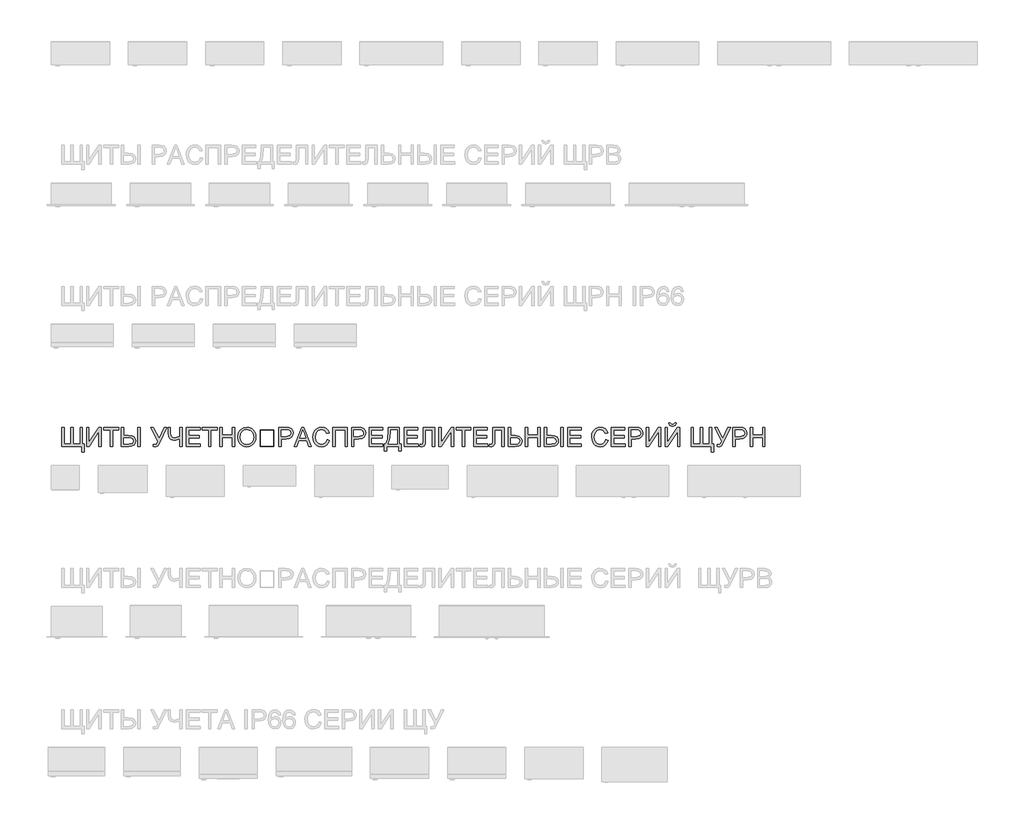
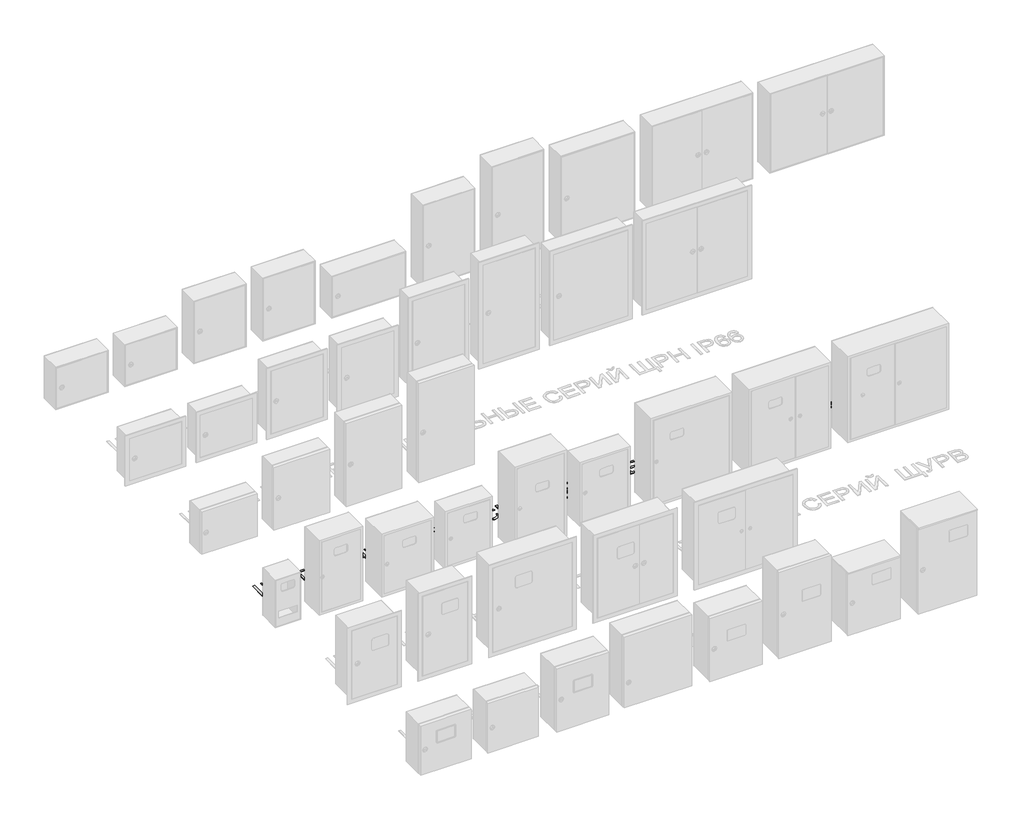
# One storey, part 11 of 25: 1 proxy.
"""IFC4 building model written with IfcOpenShell, lengths in millimetres."""

from ifc_helpers import new_model, si_unit, frame, origin, place, context, project, spatial, polyline, outline, extrude, element, save

model = new_model("IFC4")

# Units and contexts
model_context = context("Model", 3, world=origin())
ifc_project = project(units=[si_unit("LENGTHUNIT", "METRE", prefix="MILLI")], contexts=[model_context])

# Site, building, storey
site = spatial("IfcSite", under=ifc_project)
building = spatial("IfcBuilding", under=site)
storey = spatial("IfcBuildingStorey", under=building, Name="Этаж 01", Elevation=0.0)

# Proxy
placement = place(None, origin())
element("IfcBuildingElementProxy", 1, Name="Надпись на модели 1", ObjectType="Надпись на модели 1", at=placement, inside=storey, context=model_context, shape_type="SweptSolid", body=[
    extrude(outline(polyline([(-19039.6906686, 7636.6915941), (-19027.1336298, 7636.6915941), (-19027.1336298, 7548.7923228), (-18991.0321433, 7548.7923228), (-18991.0321433, 7636.6915941), (-18978.4751046, 7636.6915941), (-18978.4751046, 7548.7923228), (-18942.3736181, 7548.7923228), (-18942.3736181, 7636.6915941), (-18929.8165793, 7636.6915941), (-18929.8165793, 7548.7923228), (-18920.3988003, 7548.7923228), (-18920.3988003, 7507.9819468), (-18932.955839, 7507.9819468), (-18932.955839, 7536.235284), (-19039.6906686, 7536.235284), (-19039.6906686, 7636.6915941)])), frame((0.0, 0.0, 40.0), z_axis=(0.0, 0.0, 1.0), x_axis=(1.0, 0.0, 0.0)), (0.0, 0.0, 1.0), 2.0),
    extrude(outline(polyline([(-18907.8417615, 7636.6915941), (-18895.2847227, 7636.6915941), (-18895.2847227, 7557.1309813), (-18842.7021229, 7636.6915941), (-18829.3602692, 7636.6915941), (-18829.3602692, 7536.235284), (-18841.917308, 7536.235284), (-18841.917308, 7615.5751676), (-18894.3772805, 7536.235284), (-18907.8417615, 7536.235284), (-18907.8417615, 7636.6915941)])), frame((0.0, 0.0, 40.0), z_axis=(0.0, 0.0, 1.0), x_axis=(1.0, 0.0, 0.0)), (0.0, 0.0, 1.0), 2.0),
    extrude(outline(polyline([(-18782.2713738, 7536.235284), (-18782.2713738, 7624.1345554), (-18815.2336006, 7624.1345554), (-18815.2336006, 7636.6915941), (-18736.7521083, 7636.6915941), (-18736.7521083, 7624.1345554), (-18769.714335, 7624.1345554), (-18769.714335, 7536.235284), (-18782.2713738, 7536.235284)])), frame((0.0, 0.0, 40.0), z_axis=(0.0, 0.0, 1.0), x_axis=(1.0, 0.0, 0.0)), (0.0, 0.0, 1.0), 2.0),
    extrude(outline(polyline([(-18722.6254397, 7636.6915941), (-18710.0684009, 7636.6915941), (-18710.0684009, 7594.3115883), (-18685.935342, 7594.3115883), (-18666.2965748, 7592.1165591), (-18654.7634743, 7585.5314713), (-18649.1532739, 7576.1627432), (-18647.2832071, 7565.6167927), (-18649.2605728, 7554.6017926), (-18655.1926699, 7545.0521891), (-18666.4958443, 7538.4395103), (-18684.5864414, 7536.235284), (-18722.6254397, 7536.235284), (-18722.6254397, 7636.6915941)]), holes=[polyline([(-18710.0684009, 7548.7923228), (-18684.7090687, 7548.7923228), (-18665.7386205, 7552.777711), (-18661.3148395, 7557.9617815), (-18659.8402458, 7565.5432163), (-18663.4087012, 7575.5250811), (-18672.6302765, 7580.6509035), (-18691.5026229, 7581.7545495), (-18710.0684009, 7581.7545495), (-18710.0684009, 7548.7923228)])]), frame((0.0, 0.0, 40.0), z_axis=(0.0, 0.0, 1.0), x_axis=(1.0, 0.0, 0.0)), (0.0, 0.0, 1.0), 2.0),
    extrude(outline(polyline([(-18634.7261683, 7636.6915941), (-18622.1691295, 7636.6915941), (-18622.1691295, 7536.235284), (-18634.7261683, 7536.235284), (-18634.7261683, 7636.6915941)])), frame((0.0, 0.0, 40.0), z_axis=(0.0, 0.0, 1.0), x_axis=(1.0, 0.0, 0.0)), (0.0, 0.0, 1.0), 2.0),
    extrude(outline(polyline([(-18566.44727, 7636.6915941), (-18552.5413306, 7636.6915941), (-18522.4976343, 7577.1928128), (-18495.4705704, 7636.6915941), (-18481.6872583, 7636.6915941), (-18519.8243585, 7558.430831), (-18530.1986307, 7539.2028654), (-18541.7991763, 7534.6656541), (-18553.1054163, 7536.235284), (-18553.1054163, 7547.2226929), (-18543.2216533, 7547.2226929), (-18535.8885389, 7550.0185961), (-18529.0949847, 7562.7473131), (-18566.44727, 7636.6915941)])), frame((0.0, 0.0, 40.0), z_axis=(0.0, 0.0, 1.0), x_axis=(1.0, 0.0, 0.0)), (0.0, 0.0, 1.0), 2.0),
    extrude(outline(polyline([(-18399.2816914, 7536.235284), (-18411.8387301, 7536.235284), (-18411.8387301, 7576.4570488), (-18442.9370215, 7569.1975108), (-18461.294333, 7574.1639177), (-18471.9383854, 7586.7700074), (-18474.623924, 7606.7705252), (-18474.623924, 7636.6915941), (-18462.0668852, 7636.6915941), (-18462.0668852, 7608.4627824), (-18460.558569, 7594.8848711), (-18456.0336205, 7586.9171602), (-18441.5390699, 7581.7545495), (-18411.8387301, 7587.984018), (-18411.8387301, 7636.6915941), (-18399.2816914, 7636.6915941), (-18399.2816914, 7536.235284)])), frame((0.0, 0.0, 40.0), z_axis=(0.0, 0.0, 1.0), x_axis=(1.0, 0.0, 0.0)), (0.0, 0.0, 1.0), 2.0),
    extrude(outline(polyline([(-18377.3068735, 7536.235284), (-18377.3068735, 7636.6915941), (-18305.1039006, 7636.6915941), (-18305.1039006, 7624.1345554), (-18364.7498348, 7624.1345554), (-18364.7498348, 7594.3115883), (-18308.2431603, 7594.3115883), (-18308.2431603, 7581.7545495), (-18364.7498348, 7581.7545495), (-18364.7498348, 7548.7923228), (-18303.5342708, 7548.7923228), (-18303.5342708, 7536.235284), (-18377.3068735, 7536.235284)])), frame((0.0, 0.0, 40.0), z_axis=(0.0, 0.0, 1.0), x_axis=(1.0, 0.0, 0.0)), (0.0, 0.0, 1.0), 2.0),
    extrude(outline(polyline([(-18259.5846351, 7536.235284), (-18259.5846351, 7624.1345554), (-18292.5468618, 7624.1345554), (-18292.5468618, 7636.6915941), (-18214.0653695, 7636.6915941), (-18214.0653695, 7624.1345554), (-18247.0275963, 7624.1345554), (-18247.0275963, 7536.235284), (-18259.5846351, 7536.235284)])), frame((0.0, 0.0, 40.0), z_axis=(0.0, 0.0, 1.0), x_axis=(1.0, 0.0, 0.0)), (0.0, 0.0, 1.0), 2.0),
    extrude(outline(polyline([(-18199.9387009, 7536.235284), (-18199.9387009, 7636.6915941), (-18187.3816621, 7636.6915941), (-18187.3816621, 7595.8812181), (-18134.0142474, 7595.8812181), (-18134.0142474, 7636.6915941), (-18121.4572086, 7636.6915941), (-18121.4572086, 7536.235284), (-18134.0142474, 7536.235284), (-18134.0142474, 7583.3241794), (-18187.3816621, 7583.3241794), (-18187.3816621, 7536.235284), (-18199.9387009, 7536.235284)])), frame((0.0, 0.0, 40.0), z_axis=(0.0, 0.0, 1.0), x_axis=(1.0, 0.0, 0.0)), (0.0, 0.0, 1.0), 2.0),
    extrude(outline(polyline([(-18104.1912803, 7585.1390639), (-18100.8435541, 7607.353005), (-18090.8003757, 7624.1590808), (-18075.4658278, 7634.7356882), (-18056.2439936, 7638.261224), (-18043.0676868, 7636.605755), (-18031.2525434, 7631.6393481), (-18021.4423569, 7623.7114911), (-18014.2809207, 7613.1716719), (-18009.9031249, 7600.528794), (-18008.4438597, 7586.2917608), (-18009.979767, 7571.8646552), (-18014.587489, 7559.0439677), (-18022.0125739, 7548.4857544), (-18032.0005701, 7540.8460717), (-18043.714546, 7536.2107585), (-18056.31757, 7534.6656541), (-18069.6962119, 7536.3732397), (-18081.5788003, 7541.4959965), (-18091.3644614, 7549.5710063), (-18098.4523212, 7560.1353509), (-18104.1912803, 7585.1390639)]), holes=[polyline([(-18091.6342415, 7585.0164366), (-18089.1234469, 7569.301744), (-18081.5910631, 7557.327185), (-18070.2694947, 7549.7488159), (-18056.3911464, 7547.2226929), (-18042.310463, 7549.7733414), (-18030.9705005, 7557.4252869), (-18023.493299, 7569.7677279), (-18021.0008985, 7586.3898627), (-18025.2683296, 7607.1138817), (-18037.7395292, 7620.8358802), (-18056.1704172, 7625.7041852), (-18069.6778178, 7623.3589375), (-18081.1618674, 7616.3231943), (-18089.016148, 7603.8060095), (-18091.6342415, 7585.0164366)])]), frame((0.0, 0.0, 40.0), z_axis=(0.0, 0.0, 1.0), x_axis=(1.0, 0.0, 0.0)), (0.0, 0.0, 1.0), 2.0),
    extrude(outline(polyline([(-17984.899412, 7536.235284), (-17984.899412, 7624.1345554), (-17914.2660689, 7624.1345554), (-17914.2660689, 7536.235284), (-17984.899412, 7536.235284)]), holes=[polyline([(-17981.7601523, 7539.3745437), (-17917.4053286, 7539.3745437), (-17917.4053286, 7620.9952957), (-17981.7601523, 7620.9952957), (-17981.7601523, 7539.3745437)])]), frame((0.0, 0.0, 40.0), z_axis=(0.0, 0.0, 1.0), x_axis=(1.0, 0.0, 0.0)), (0.0, 0.0, 1.0), 2.0),
    extrude(outline(polyline([(-17886.0127317, 7536.235284), (-17886.0127317, 7636.6915941), (-17848.7830738, 7636.6915941), (-17833.7734884, 7635.735101), (-17821.5720689, 7631.0384742), (-17813.662606, 7621.3263895), (-17810.6704991, 7607.6289165), (-17812.6907844, 7595.7892476), (-17818.7516402, 7585.9238788), (-17830.0854714, 7579.2652147), (-17847.9246825, 7577.04566), (-17873.4556929, 7577.04566), (-17873.4556929, 7536.235284), (-17886.0127317, 7536.235284)]), holes=[polyline([(-17873.4556929, 7589.6026988), (-17847.1889185, 7589.6026988), (-17828.6967169, 7594.2134864), (-17824.5948326, 7599.7623732), (-17823.2275379, 7607.1874581), (-17826.4526367, 7617.5862559), (-17834.9261853, 7623.2761641), (-17847.4832241, 7624.1345554), (-17873.4556929, 7624.1345554), (-17873.4556929, 7589.6026988)])]), frame((0.0, 0.0, 40.0), z_axis=(0.0, 0.0, 1.0), x_axis=(1.0, 0.0, 0.0)), (0.0, 0.0, 1.0), 2.0),
    extrude(outline(polyline([(-17805.1032182, 7536.235284), (-17765.0040808, 7636.6915941), (-17754.3109774, 7636.6915941), (-17714.21184, 7536.235284), (-17727.4801172, 7536.235284), (-17738.982561, 7567.6278809), (-17780.3570227, 7567.6278809), (-17791.8349409, 7536.235284), (-17805.1032182, 7536.235284)]), holes=[polyline([(-17775.746235, 7580.1849197), (-17743.5688232, 7580.1849197), (-17752.6187202, 7604.8820643), (-17759.6575291, 7624.1345554), (-17765.911523, 7607.0403053), (-17775.746235, 7580.1849197)])]), frame((0.0, 0.0, 40.0), z_axis=(0.0, 0.0, 1.0), x_axis=(1.0, 0.0, 0.0)), (0.0, 0.0, 1.0), 2.0),
    extrude(outline(polyline([(-17630.1630668, 7571.944363), (-17617.606028, 7568.7070014), (-17623.4001694, 7554.0744951), (-17632.4929861, 7543.3844574), (-17644.4368882, 7536.845355), (-17658.784286, 7534.6656541), (-17673.3493473, 7536.3149918), (-17684.9161704, 7541.2630046), (-17693.7821265, 7549.3380144), (-17700.2445869, 7560.3683429), (-17705.5052994, 7587.2237285), (-17704.018443, 7601.8715633), (-17699.5578738, 7614.5205726), (-17692.3565838, 7624.7691518), (-17682.6475648, 7632.2156965), (-17671.1328583, 7636.7498421), (-17658.5145059, 7638.261224), (-17644.7465222, 7636.305318), (-17633.3636401, 7630.4376002), (-17624.7214789, 7621.0198211), (-17619.1756579, 7608.4137314), (-17631.7326966, 7605.4216246), (-17642.0333925, 7620.8604056), (-17659.0050152, 7625.7041852), (-17678.6499138, 7620.3331081), (-17689.7476873, 7605.9121339), (-17692.9482606, 7587.248254), (-17689.1590761, 7565.6167927), (-17677.3623268, 7551.7966924), (-17660.0350848, 7547.2226929), (-17649.5535136, 7548.78006), (-17640.8193819, 7553.4521614), (-17634.2250972, 7561.189946), (-17630.1630668, 7571.944363)])), frame((0.0, 0.0, 40.0), z_axis=(0.0, 0.0, 1.0), x_axis=(1.0, 0.0, 0.0)), (0.0, 0.0, 1.0), 2.0),
    extrude(outline(polyline([(-17600.3400997, 7636.6915941), (-17521.8586074, 7636.6915941), (-17521.8586074, 7536.235284), (-17534.4156462, 7536.235284), (-17534.4156462, 7624.1345554), (-17587.7830609, 7624.1345554), (-17587.7830609, 7536.235284), (-17600.3400997, 7536.235284), (-17600.3400997, 7636.6915941)])), frame((0.0, 0.0, 40.0), z_axis=(0.0, 0.0, 1.0), x_axis=(1.0, 0.0, 0.0)), (0.0, 0.0, 1.0), 2.0),
    extrude(outline(polyline([(-17499.8837896, 7536.235284), (-17499.8837896, 7636.6915941), (-17462.6541316, 7636.6915941), (-17447.6445462, 7635.735101), (-17435.4431267, 7631.0384742), (-17427.5336638, 7621.3263895), (-17424.5415569, 7607.6289165), (-17426.5618422, 7595.7892476), (-17432.6226981, 7585.9238788), (-17443.9565292, 7579.2652147), (-17461.7957403, 7577.04566), (-17487.3267508, 7577.04566), (-17487.3267508, 7536.235284), (-17499.8837896, 7536.235284)]), holes=[polyline([(-17487.3267508, 7589.6026988), (-17461.0599763, 7589.6026988), (-17442.5677747, 7594.2134864), (-17438.4658905, 7599.7623732), (-17437.0985957, 7607.1874581), (-17440.3236945, 7617.5862559), (-17448.7972432, 7623.2761641), (-17461.3542819, 7624.1345554), (-17487.3267508, 7624.1345554), (-17487.3267508, 7589.6026988)])]), frame((0.0, 0.0, 40.0), z_axis=(0.0, 0.0, 1.0), x_axis=(1.0, 0.0, 0.0)), (0.0, 0.0, 1.0), 2.0),
    extrude(outline(polyline([(-17407.2756286, 7536.235284), (-17407.2756286, 7636.6915941), (-17335.0726557, 7636.6915941), (-17335.0726557, 7624.1345554), (-17394.7185899, 7624.1345554), (-17394.7185899, 7594.3115883), (-17338.2119154, 7594.3115883), (-17338.2119154, 7581.7545495), (-17394.7185899, 7581.7545495), (-17394.7185899, 7548.7923228), (-17333.5030259, 7548.7923228), (-17333.5030259, 7536.235284), (-17407.2756286, 7536.235284)])), frame((0.0, 0.0, 40.0), z_axis=(0.0, 0.0, 1.0), x_axis=(1.0, 0.0, 0.0)), (0.0, 0.0, 1.0), 2.0),
    extrude(outline(polyline([(-17305.2496886, 7636.6915941), (-17245.6037545, 7636.6915941), (-17245.6037545, 7548.7923228), (-17236.1859754, 7548.7923228), (-17236.1859754, 7512.6908363), (-17248.7430142, 7512.6908363), (-17248.7430142, 7536.235284), (-17313.0978379, 7536.235284), (-17313.0978379, 7512.6908363), (-17325.6548766, 7512.6908363), (-17325.6548766, 7548.7923228), (-17317.8067274, 7548.7923228), (-17308.3889483, 7576.2056628), (-17305.2496886, 7622.1479926), (-17305.2496886, 7636.6915941)]), holes=[polyline([(-17258.1607933, 7624.1345554), (-17292.6926499, 7624.1345554), (-17292.6926499, 7619.0823093), (-17295.2432984, 7584.67308), (-17299.0202202, 7564.7890582), (-17305.2496886, 7548.7923228), (-17258.1607933, 7548.7923228), (-17258.1607933, 7624.1345554)])]), frame((0.0, 0.0, 40.0), z_axis=(0.0, 0.0, 1.0), x_axis=(1.0, 0.0, 0.0)), (0.0, 0.0, 1.0), 2.0),
    extrude(outline(polyline([(-17220.489677, 7536.235284), (-17220.489677, 7636.6915941), (-17148.286704, 7636.6915941), (-17148.286704, 7624.1345554), (-17207.9326382, 7624.1345554), (-17207.9326382, 7594.3115883), (-17151.4259637, 7594.3115883), (-17151.4259637, 7581.7545495), (-17207.9326382, 7581.7545495), (-17207.9326382, 7548.7923228), (-17146.7170742, 7548.7923228), (-17146.7170742, 7536.235284), (-17220.489677, 7536.235284)])), frame((0.0, 0.0, 40.0), z_axis=(0.0, 0.0, 1.0), x_axis=(1.0, 0.0, 0.0)), (0.0, 0.0, 1.0), 2.0),
    extrude(outline(polyline([(-17120.0333668, 7636.6915941), (-17058.8178028, 7636.6915941), (-17058.8178028, 7536.235284), (-17071.3748416, 7536.235284), (-17071.3748416, 7624.1345554), (-17107.476328, 7624.1345554), (-17107.476328, 7572.8763307), (-17108.9355933, 7550.0063333), (-17115.0546971, 7538.7000934), (-17126.8759719, 7534.6656541), (-17137.2992951, 7536.235284), (-17135.7296653, 7548.7923228), (-17129.720926, 7547.2226929), (-17122.4491252, 7550.5949445), (-17120.0333668, 7566.475184), (-17120.0333668, 7636.6915941)])), frame((0.0, 0.0, 40.0), z_axis=(0.0, 0.0, 1.0), x_axis=(1.0, 0.0, 0.0)), (0.0, 0.0, 1.0), 2.0),
    extrude(outline(polyline([(-17036.842985, 7636.6915941), (-17024.2859462, 7636.6915941), (-17024.2859462, 7557.1309813), (-16971.7033464, 7636.6915941), (-16958.3614927, 7636.6915941), (-16958.3614927, 7536.235284), (-16970.9185314, 7536.235284), (-16970.9185314, 7615.5751676), (-17023.3785039, 7536.235284), (-17036.842985, 7536.235284), (-17036.842985, 7636.6915941)])), frame((0.0, 0.0, 40.0), z_axis=(0.0, 0.0, 1.0), x_axis=(1.0, 0.0, 0.0)), (0.0, 0.0, 1.0), 2.0),
    extrude(outline(polyline([(-16911.2725973, 7536.235284), (-16911.2725973, 7624.1345554), (-16944.234824, 7624.1345554), (-16944.234824, 7636.6915941), (-16865.7533317, 7636.6915941), (-16865.7533317, 7624.1345554), (-16898.7155585, 7624.1345554), (-16898.7155585, 7536.235284), (-16911.2725973, 7536.235284)])), frame((0.0, 0.0, 40.0), z_axis=(0.0, 0.0, 1.0), x_axis=(1.0, 0.0, 0.0)), (0.0, 0.0, 1.0), 2.0),
    extrude(outline(polyline([(-16851.6266631, 7536.235284), (-16851.6266631, 7636.6915941), (-16779.4236902, 7636.6915941), (-16779.4236902, 7624.1345554), (-16839.0696244, 7624.1345554), (-16839.0696244, 7594.3115883), (-16782.5629499, 7594.3115883), (-16782.5629499, 7581.7545495), (-16839.0696244, 7581.7545495), (-16839.0696244, 7548.7923228), (-16777.8540604, 7548.7923228), (-16777.8540604, 7536.235284), (-16851.6266631, 7536.235284)])), frame((0.0, 0.0, 40.0), z_axis=(0.0, 0.0, 1.0), x_axis=(1.0, 0.0, 0.0)), (0.0, 0.0, 1.0), 2.0),
    extrude(outline(polyline([(-16751.170353, 7636.6915941), (-16689.954789, 7636.6915941), (-16689.954789, 7536.235284), (-16702.5118277, 7536.235284), (-16702.5118277, 7624.1345554), (-16738.6133142, 7624.1345554), (-16738.6133142, 7572.8763307), (-16740.0725795, 7550.0063333), (-16746.1916833, 7538.7000934), (-16758.0129581, 7534.6656541), (-16768.4362813, 7536.235284), (-16766.8666514, 7548.7923228), (-16760.8579122, 7547.2226929), (-16753.5861114, 7550.5949445), (-16751.170353, 7566.475184), (-16751.170353, 7636.6915941)])), frame((0.0, 0.0, 40.0), z_axis=(0.0, 0.0, 1.0), x_axis=(1.0, 0.0, 0.0)), (0.0, 0.0, 1.0), 2.0),
    extrude(outline(polyline([(-16667.9799711, 7636.6915941), (-16655.4229324, 7636.6915941), (-16655.4229324, 7594.3115883), (-16631.9030101, 7594.3115883), (-16608.0519941, 7590.375251), (-16597.4324672, 7579.6576222), (-16594.2073684, 7565.6903691), (-16596.1448802, 7554.666172), (-16601.9574157, 7545.0889773), (-16613.0429265, 7538.4487073), (-16630.7993642, 7536.235284), (-16667.9799711, 7536.235284), (-16667.9799711, 7636.6915941)]), holes=[polyline([(-16655.4229324, 7548.7923228), (-16630.8238896, 7548.7923228), (-16618.4507919, 7550.0339245), (-16611.3016184, 7553.7587297), (-16606.7644071, 7565.73942), (-16610.0508196, 7575.4269792), (-16618.8186738, 7580.5895899), (-16637.3967146, 7581.7545495), (-16655.4229324, 7581.7545495), (-16655.4229324, 7548.7923228)])]), frame((0.0, 0.0, 40.0), z_axis=(0.0, 0.0, 1.0), x_axis=(1.0, 0.0, 0.0)), (0.0, 0.0, 1.0), 2.0),
    extrude(outline(polyline([(-16576.9414401, 7536.235284), (-16576.9414401, 7636.6915941), (-16564.3844013, 7636.6915941), (-16564.3844013, 7595.8812181), (-16511.0169865, 7595.8812181), (-16511.0169865, 7636.6915941), (-16498.4599478, 7636.6915941), (-16498.4599478, 7536.235284), (-16511.0169865, 7536.235284), (-16511.0169865, 7583.3241794), (-16564.3844013, 7583.3241794), (-16564.3844013, 7536.235284), (-16576.9414401, 7536.235284)])), frame((0.0, 0.0, 40.0), z_axis=(0.0, 0.0, 1.0), x_axis=(1.0, 0.0, 0.0)), (0.0, 0.0, 1.0), 2.0),
    extrude(outline(polyline([(-16476.4851299, 7636.6915941), (-16463.9280911, 7636.6915941), (-16463.9280911, 7594.3115883), (-16439.7950323, 7594.3115883), (-16420.1562651, 7592.1165591), (-16408.6231645, 7585.5314713), (-16403.0129641, 7576.1627432), (-16401.1428973, 7565.6167927), (-16403.120263, 7554.6017926), (-16409.0523602, 7545.0521891), (-16420.3555345, 7538.4395103), (-16438.4461316, 7536.235284), (-16476.4851299, 7536.235284), (-16476.4851299, 7636.6915941)]), holes=[polyline([(-16463.9280911, 7548.7923228), (-16438.5687589, 7548.7923228), (-16419.5983107, 7552.777711), (-16415.1745297, 7557.9617815), (-16413.6999361, 7565.5432163), (-16417.2683914, 7575.5250811), (-16426.4899668, 7580.6509035), (-16445.3623131, 7581.7545495), (-16463.9280911, 7581.7545495), (-16463.9280911, 7548.7923228)])]), frame((0.0, 0.0, 40.0), z_axis=(0.0, 0.0, 1.0), x_axis=(1.0, 0.0, 0.0)), (0.0, 0.0, 1.0), 2.0),
    extrude(outline(polyline([(-16388.5858585, 7636.6915941), (-16376.0288198, 7636.6915941), (-16376.0288198, 7536.235284), (-16388.5858585, 7536.235284), (-16388.5858585, 7636.6915941)])), frame((0.0, 0.0, 40.0), z_axis=(0.0, 0.0, 1.0), x_axis=(1.0, 0.0, 0.0)), (0.0, 0.0, 1.0), 2.0),
    extrude(outline(polyline([(-16352.4843721, 7536.235284), (-16352.4843721, 7636.6915941), (-16280.2813992, 7636.6915941), (-16280.2813992, 7624.1345554), (-16339.9273333, 7624.1345554), (-16339.9273333, 7594.3115883), (-16283.4206588, 7594.3115883), (-16283.4206588, 7581.7545495), (-16339.9273333, 7581.7545495), (-16339.9273333, 7548.7923228), (-16278.7117693, 7548.7923228), (-16278.7117693, 7536.235284), (-16352.4843721, 7536.235284)])), frame((0.0, 0.0, 40.0), z_axis=(0.0, 0.0, 1.0), x_axis=(1.0, 0.0, 0.0)), (0.0, 0.0, 1.0), 2.0),
    extrude(outline(polyline([(-16150.0021219, 7571.944363), (-16137.4450832, 7568.7070014), (-16143.2392246, 7554.0744951), (-16152.3320412, 7543.3844574), (-16164.2759433, 7536.845355), (-16178.6233412, 7534.6656541), (-16193.1884025, 7536.3149918), (-16204.7552255, 7541.2630046), (-16213.6211816, 7549.3380144), (-16220.083642, 7560.3683429), (-16225.3443545, 7587.2237285), (-16223.8574981, 7601.8715633), (-16219.3969289, 7614.5205726), (-16212.1956389, 7624.7691518), (-16202.4866199, 7632.2156965), (-16190.9719135, 7636.7498421), (-16178.353561, 7638.261224), (-16164.5855774, 7636.305318), (-16153.2026953, 7630.4376002), (-16144.5605341, 7621.0198211), (-16139.014713, 7608.4137314), (-16151.5717518, 7605.4216246), (-16161.8724476, 7620.8604056), (-16178.8440703, 7625.7041852), (-16198.4889689, 7620.3331081), (-16209.5867424, 7605.9121339), (-16212.7873158, 7587.248254), (-16208.9981312, 7565.6167927), (-16197.2013819, 7551.7966924), (-16179.8741399, 7547.2226929), (-16169.3925688, 7548.78006), (-16160.6584371, 7553.4521614), (-16154.0641523, 7561.189946), (-16150.0021219, 7571.944363)])), frame((0.0, 0.0, 40.0), z_axis=(0.0, 0.0, 1.0), x_axis=(1.0, 0.0, 0.0)), (0.0, 0.0, 1.0), 2.0),
    extrude(outline(polyline([(-16120.1791549, 7536.235284), (-16120.1791549, 7636.6915941), (-16047.9761819, 7636.6915941), (-16047.9761819, 7624.1345554), (-16107.6221161, 7624.1345554), (-16107.6221161, 7594.3115883), (-16051.1154416, 7594.3115883), (-16051.1154416, 7581.7545495), (-16107.6221161, 7581.7545495), (-16107.6221161, 7548.7923228), (-16046.4065521, 7548.7923228), (-16046.4065521, 7536.235284), (-16120.1791549, 7536.235284)])), frame((0.0, 0.0, 40.0), z_axis=(0.0, 0.0, 1.0), x_axis=(1.0, 0.0, 0.0)), (0.0, 0.0, 1.0), 2.0),
    extrude(outline(polyline([(-16027.5709939, 7536.235284), (-16027.5709939, 7636.6915941), (-15990.341336, 7636.6915941), (-15975.3317506, 7635.735101), (-15963.1303311, 7631.0384742), (-15955.2208682, 7621.3263895), (-15952.2287613, 7607.6289165), (-15954.2490466, 7595.7892476), (-15960.3099025, 7585.9238788), (-15971.6437336, 7579.2652147), (-15989.4829447, 7577.04566), (-16015.0139552, 7577.04566), (-16015.0139552, 7536.235284), (-16027.5709939, 7536.235284)]), holes=[polyline([(-16015.0139552, 7589.6026988), (-15988.7471807, 7589.6026988), (-15970.2549791, 7594.2134864), (-15966.1530948, 7599.7623732), (-15964.7858001, 7607.1874581), (-15968.0108989, 7617.5862559), (-15976.4844475, 7623.2761641), (-15989.0414863, 7624.1345554), (-16015.0139552, 7624.1345554), (-16015.0139552, 7589.6026988)])]), frame((0.0, 0.0, 40.0), z_axis=(0.0, 0.0, 1.0), x_axis=(1.0, 0.0, 0.0)), (0.0, 0.0, 1.0), 2.0),
    extrude(outline(polyline([(-15934.962833, 7636.6915941), (-15922.4057942, 7636.6915941), (-15922.4057942, 7557.1309813), (-15869.8231944, 7636.6915941), (-15856.4813407, 7636.6915941), (-15856.4813407, 7536.235284), (-15869.0383795, 7536.235284), (-15869.0383795, 7615.5751676), (-15921.498352, 7536.235284), (-15934.962833, 7536.235284), (-15934.962833, 7636.6915941)])), frame((0.0, 0.0, 40.0), z_axis=(0.0, 0.0, 1.0), x_axis=(1.0, 0.0, 0.0)), (0.0, 0.0, 1.0), 2.0),
    extrude(outline(polyline([(-15834.5065229, 7636.6915941), (-15821.9494841, 7636.6915941), (-15821.9494841, 7557.1309813), (-15769.3668843, 7636.6915941), (-15756.0250306, 7636.6915941), (-15756.0250306, 7536.235284), (-15768.5820693, 7536.235284), (-15768.5820693, 7615.5751676), (-15821.0420418, 7536.235284), (-15834.5065229, 7536.235284), (-15834.5065229, 7636.6915941)])), frame((0.0, 0.0, 40.0), z_axis=(0.0, 0.0, 1.0), x_axis=(1.0, 0.0, 0.0)), (0.0, 0.0, 1.0), 2.0),
    extrude(outline(polyline([(-15784.2783678, 7661.8056717), (-15774.8605887, 7661.8056717), (-15780.9551671, 7647.8384186), (-15794.4809618, 7642.9701135), (-15809.1226652, 7647.8016304), (-15815.6709647, 7661.8056717), (-15806.2531856, 7661.8056717), (-15802.7215185, 7654.7300746), (-15795.6091332, 7652.3878926), (-15787.8100349, 7654.6564982), (-15784.2783678, 7661.8056717)])), frame((0.0, 0.0, 40.0), z_axis=(0.0, 0.0, 1.0), x_axis=(1.0, 0.0, 0.0)), (0.0, 0.0, 1.0), 2.0),
    extrude(outline(polyline([(-15696.3790964, 7636.6915941), (-15683.8220576, 7636.6915941), (-15683.8220576, 7548.7923228), (-15647.7205712, 7548.7923228), (-15647.7205712, 7636.6915941), (-15635.1635324, 7636.6915941), (-15635.1635324, 7548.7923228), (-15599.0620459, 7548.7923228), (-15599.0620459, 7636.6915941), (-15586.5050072, 7636.6915941), (-15586.5050072, 7548.7923228), (-15577.0872281, 7548.7923228), (-15577.0872281, 7507.9819468), (-15589.6442669, 7507.9819468), (-15589.6442669, 7536.235284), (-15696.3790964, 7536.235284), (-15696.3790964, 7636.6915941)])), frame((0.0, 0.0, 40.0), z_axis=(0.0, 0.0, 1.0), x_axis=(1.0, 0.0, 0.0)), (0.0, 0.0, 1.0), 2.0),
    extrude(outline(polyline([(-15571.5935236, 7636.6915941), (-15557.6875842, 7636.6915941), (-15527.643888, 7577.1928128), (-15500.616824, 7636.6915941), (-15486.833512, 7636.6915941), (-15524.9706121, 7558.430831), (-15535.3448844, 7539.2028654), (-15546.94543, 7534.6656541), (-15558.25167, 7536.235284), (-15558.25167, 7547.2226929), (-15548.367907, 7547.2226929), (-15541.0347926, 7550.0185961), (-15534.2412384, 7562.7473131), (-15571.5935236, 7636.6915941)])), frame((0.0, 0.0, 40.0), z_axis=(0.0, 0.0, 1.0), x_axis=(1.0, 0.0, 0.0)), (0.0, 0.0, 1.0), 2.0),
    extrude(outline(polyline([(-15475.0612881, 7536.235284), (-15475.0612881, 7636.6915941), (-15437.8316302, 7636.6915941), (-15422.8220448, 7635.735101), (-15410.6206253, 7631.0384742), (-15402.7111624, 7621.3263895), (-15399.7190555, 7607.6289165), (-15401.7393408, 7595.7892476), (-15407.8001967, 7585.9238788), (-15419.1340278, 7579.2652147), (-15436.9732389, 7577.04566), (-15462.5042493, 7577.04566), (-15462.5042493, 7536.235284), (-15475.0612881, 7536.235284)]), holes=[polyline([(-15462.5042493, 7589.6026988), (-15436.2374749, 7589.6026988), (-15417.7452733, 7594.2134864), (-15413.643389, 7599.7623732), (-15412.2760943, 7607.1874581), (-15415.5011931, 7617.5862559), (-15423.9747417, 7623.2761641), (-15436.5317805, 7624.1345554), (-15462.5042493, 7624.1345554), (-15462.5042493, 7589.6026988)])]), frame((0.0, 0.0, 40.0), z_axis=(0.0, 0.0, 1.0), x_axis=(1.0, 0.0, 0.0)), (0.0, 0.0, 1.0), 2.0),
    extrude(outline(polyline([(-15382.4531272, 7536.235284), (-15382.4531272, 7636.6915941), (-15369.8960884, 7636.6915941), (-15369.8960884, 7595.8812181), (-15316.5286737, 7595.8812181), (-15316.5286737, 7636.6915941), (-15303.9716349, 7636.6915941), (-15303.9716349, 7536.235284), (-15316.5286737, 7536.235284), (-15316.5286737, 7583.3241794), (-15369.8960884, 7583.3241794), (-15369.8960884, 7536.235284), (-15382.4531272, 7536.235284)])), frame((0.0, 0.0, 40.0), z_axis=(0.0, 0.0, 1.0), x_axis=(1.0, 0.0, 0.0)), (0.0, 0.0, 1.0), 2.0),
])

save(model, "model.ifc")
